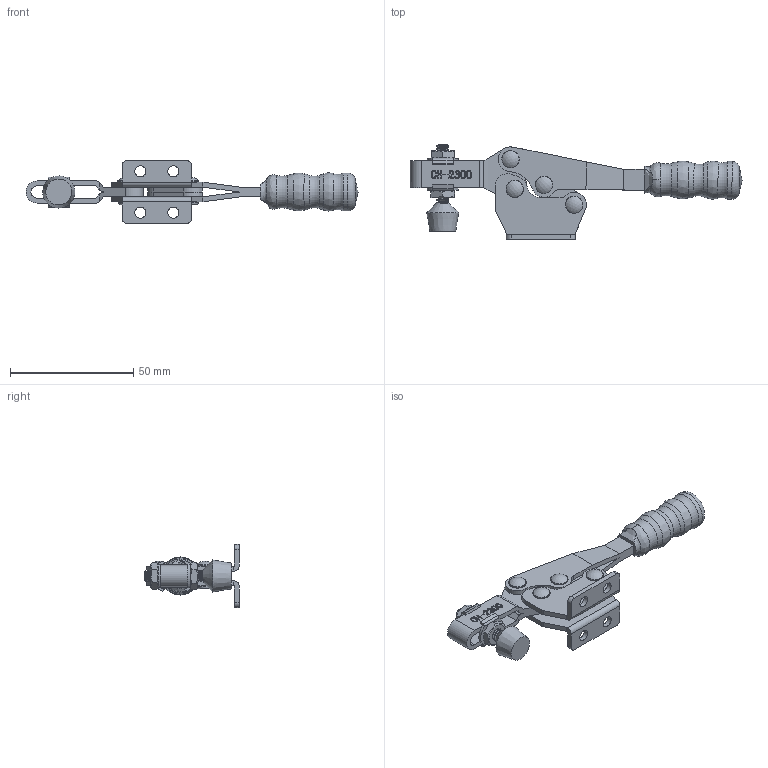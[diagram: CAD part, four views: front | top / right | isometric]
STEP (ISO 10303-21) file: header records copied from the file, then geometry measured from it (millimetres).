
FILE_DESCRIPTION(/* description */ ('STEP AP203'),/* implementation_level */ '2;1');
FILE_NAME(/* name */ 'E:\STRONA\Horizontal toggle clamp\CH-2300\CH-2300_ZAMKNIETY.stp',/* time_stamp */ '2019-01-15T15:04:00+01:00',/* author */ ('Admin'),/* organization */ ('Î¢ÈíÖÐ¹ú'),/* preprocessor_version */ 'ST-DEVELOPER v17.2',/* originating_system */ 'Autodesk Inventor 2019',/* authorisation */ '');
FILE_SCHEMA (('AUTOMOTIVE_DESIGN { 1 0 10303 214 3 1 1 }'));
Length unit declared in the file: millimetre
Products named in the file (10): CH-2300_ZAMKNIETY; CH-2300-01___; 10138-02___; CH-FC-10138___; CH-2300-04___; CH-2300-06___; CH-2300-02___; CH-2300-03___; FW100___; CH-2300-05___
Assembly tree (14 placements, depth 2):
  CH-2300_ZAMKNIETY
    CH-2300-01___
    10138-02___  x2
    CH-2300-05___  x4
    CH-FC-10138___
    CH-2300-04___
    CH-2300-06___
    CH-2300-02___
    CH-2300-03___
    FW100___  x2
Bounding box: 134.49 x 38.31 x 25.6 mm (x, y, z)
Volume: 17572.2 mm3; surface area: 17580.5 mm2
Topology: 16 solids, 17 shells, 614 faces, 1731 edges, 1180 vertices
Faces by surface type: plane 251, bspline 200, cylinder 118, torus 24, cone 17, sphere 4
Full cylindrical faces by diameter (mm): 1.6 x1, 2.4 x1, 2.9 x4, 3.8 x4, 3.9 x4, 3.98 x4, 4 x10, 4.5 x4, 4.8 x19, 4.9 x2, 6.4 x4, 7 x4, 9.526 x1, 15.323 x1
Entity records: 35127 total; most frequent: CARTESIAN_POINT 21869, ORIENTED_EDGE 3054, DIRECTION 2039, EDGE_CURVE 1527, VERTEX_POINT 1037, LINE 805, VECTOR 805, AXIS2_PLACEMENT_3D 617
